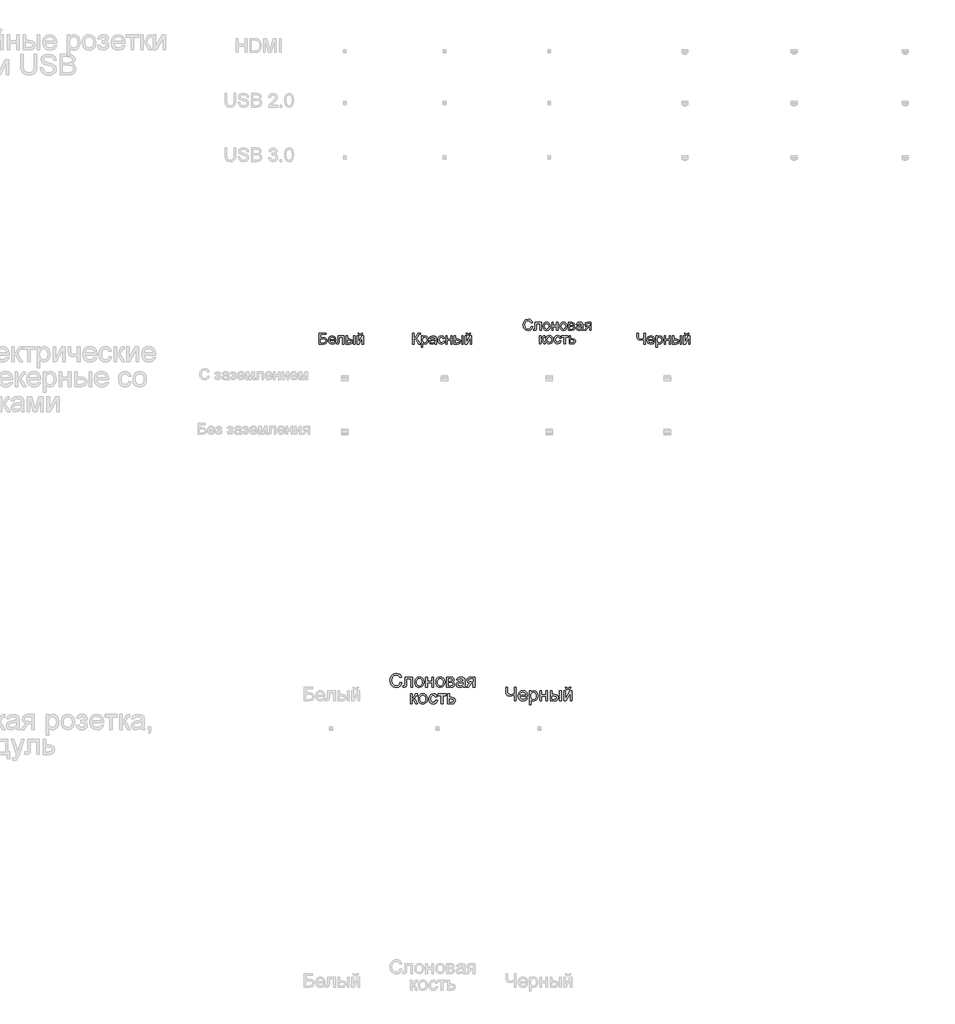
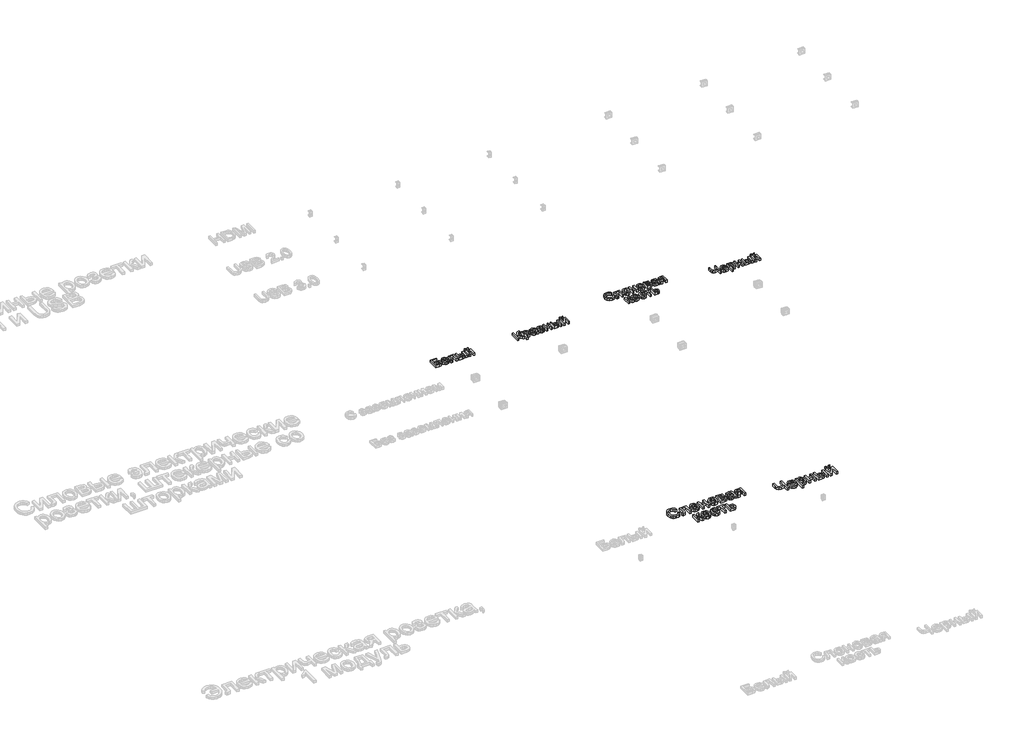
# One storey, part 36 of 47: 6 proxies.
"""IFC4 building model written with IfcOpenShell, lengths in millimetres."""

from ifc_helpers import new_model, si_unit, origin, origin_with_axes, place, context, project, spatial, polyline, outline, extrude, element, save

model = new_model("IFC4")

# Units and contexts
model_context = context("Model", 3, world=origin())
ifc_project = project(units=[si_unit("LENGTHUNIT", "METRE", prefix="MILLI")], contexts=[model_context])

# Site, building, storey
site = spatial("IfcSite", under=ifc_project)
building = spatial("IfcBuilding", under=site)
storey = spatial("IfcBuildingStorey", under=building, Name="Этаж 01", Elevation=0.0)

# Proxies
placement = place(None, origin())
element("IfcBuildingElementProxy", 1, Name="80 мм Arial", ObjectType="80 мм Arial", at=placement, inside=storey, context=model_context, shape_type="SweptSolid", body=[
    extrude(outline(polyline([(-83.3824107, -10433.3676856), (-33.1542557, -10433.3676856), (-33.1542557, -10443.4133166), (-73.3367797, -10443.4133166), (-73.3367797, -10467.2716902), (-54.5208419, -10467.2716902), (-37.9416267, -10469.312209), (-28.072579, -10477.0230156), (-24.3643285, -10490.2079064), (-27.0032687, -10501.656394), (-34.8808485, -10510.3580295), (-52.7157676, -10513.7327337), (-83.3824107, -10513.7327337), (-83.3824107, -10433.3676856)]), holes=[polyline([(-73.3367797, -10503.6871027), (-51.8132305, -10503.6871027), (-38.7656824, -10500.3712596), (-34.4099595, -10490.4237305), (-36.9017469, -10482.5559609), (-43.8375488, -10478.357201), (-58.9746666, -10477.3173212), (-73.3367797, -10477.3173212), (-73.3367797, -10503.6871027)])]), origin_with_axes(), (0.0, 0.0, 1.0), 20.0),
    extrude(outline(polyline([(29.5132159, -10496.1528794), (39.3626432, -10497.4085833), (30.1508781, -10510.3776499), (12.9928618, -10514.9884376), (1.2059227, -10512.9994222), (-7.8635948, -10507.0323763), (-13.6466997, -10497.474802), (-15.5744014, -10484.7142019), (-13.6270794, -10471.5244061), (-7.7851133, -10461.6602635), (1.1617768, -10455.5092766), (12.423871, -10453.4589476), (23.335251, -10455.5043715), (32.0540542, -10461.6406432), (37.7709405, -10471.4851653), (39.6765692, -10484.6553408), (39.6177081, -10487.3629523), (-5.5287704, -10487.3629523), (0.2494295, -10500.4105004), (13.1890655, -10504.9428065), (23.0384928, -10502.8434266), (29.5132159, -10496.1528794)]), holes=[polyline([(-5.5287704, -10477.3173212), (29.6309382, -10477.3173212), (25.6087617, -10468.2134681), (12.3846302, -10463.5045786), (0.013985, -10467.26188), (-5.5287704, -10477.3173212)])]), origin_with_axes(), (0.0, 0.0, 1.0), 20.0),
    extrude(outline(polyline([(54.7450157, -10454.7146515), (99.9503553, -10454.7146515), (99.9503553, -10513.6738726), (89.9047243, -10513.6738726), (89.9047243, -10464.7602825), (64.7906467, -10464.7602825), (64.7906467, -10492.9155178), (64.1137439, -10505.9042048), (60.3956832, -10511.3880991), (51.605756, -10513.7327337), (43.4436808, -10513.222604), (43.4436808, -10503.6871027), (47.9367463, -10503.6871027), (52.4788626, -10503.0690609), (54.2937471, -10501.1070236), (54.7450157, -10492.346527), (54.7450157, -10454.7146515)])), origin_with_axes(), (0.0, 0.0, 1.0), 20.0),
    extrude(outline(polyline([(115.0188018, -10454.7146515), (125.0644328, -10454.7146515), (125.0644328, -10476.0616174), (137.484129, -10476.0616174), (156.1725343, -10481.0942431), (161.0947954, -10487.0809094), (162.7355491, -10494.975657), (157.2320345, -10508.229219), (150.082861, -10512.356855), (139.64237, -10513.7327337), (115.0188018, -10513.7327337), (115.0188018, -10454.7146515)]), holes=[polyline([(125.0644328, -10503.6871027), (135.3847491, -10503.6871027), (148.7069824, -10501.5779126), (152.6899181, -10494.9952774), (149.737052, -10488.8148599), (136.6993141, -10486.1072484), (125.0644328, -10486.1072484), (125.0644328, -10503.6871027)])]), origin_with_axes(), (0.0, 0.0, 1.0), 20.0),
    extrude(outline(polyline([(170.2697724, -10454.7146515), (180.3154034, -10454.7146515), (180.3154034, -10513.7327337), (170.2697724, -10513.7327337), (170.2697724, -10454.7146515)])), origin_with_axes(), (0.0, 0.0, 1.0), 20.0),
    extrude(outline(polyline([(195.3838499, -10454.7146515), (205.4294809, -10454.7146515), (205.4294809, -10499.7237873), (230.1119103, -10454.7146515), (243.1005972, -10454.7146515), (243.1005972, -10513.7327337), (233.0549662, -10513.7327337), (233.0549662, -10468.9982831), (208.5294999, -10513.7327337), (195.3838499, -10513.7327337), (195.3838499, -10454.7146515)])), origin_with_axes(), (0.0, 0.0, 1.0), 20.0),
    extrude(outline(polyline([(228.0321507, -10433.3676856), (235.566374, -10433.3676856), (230.6907113, -10444.541488), (219.8700755, -10448.4361321), (208.1567128, -10444.5709186), (202.9180732, -10433.3676856), (210.4522964, -10433.3676856), (213.2776302, -10439.0281632), (218.9675384, -10440.9019088), (225.206817, -10439.0870243), (228.0321507, -10433.3676856)])), origin_with_axes(), (0.0, 0.0, 1.0), 20.0),
])
element("IfcBuildingElementProxy", 2, Name="80 мм Arial", ObjectType="80 мм Arial", at=placement, inside=storey, context=model_context, shape_type="SweptSolid", body=[
    extrude(outline(polyline([(603.2501745, -10433.3676856), (613.2958055, -10433.3676856), (613.2958055, -10468.5273941), (624.5284691, -10465.8688336), (632.3668081, -10452.4190678), (637.9095635, -10441.1864042), (644.1880829, -10435.6240285), (653.1644036, -10433.3676856), (659.7568489, -10433.4854078), (659.7568489, -10443.5310388), (657.5397468, -10443.4721777), (655.3226446, -10443.4133166), (647.4744954, -10445.8266225), (641.509902, -10456.1665591), (634.3975167, -10468.7628386), (627.4617149, -10472.9223577), (635.2166673, -10477.464474), (642.8637077, -10486.9313041), (659.7568489, -10513.7327337), (648.1023473, -10513.7327337), (633.8187157, -10491.0908231), (623.7632745, -10479.2695484), (613.2958055, -10476.0616174), (613.2958055, -10513.7327337), (603.2501745, -10513.7327337), (603.2501745, -10433.3676856)])), origin_with_axes(), (0.0, 0.0, 1.0), 20.0),
    extrude(outline(polyline([(667.2910722, -10536.3354035), (667.2910722, -10454.7146515), (677.3367032, -10454.7146515), (677.3367032, -10464.5640787), (684.2823153, -10456.2352304), (693.6608536, -10453.4589476), (706.3944757, -10457.3437815), (714.7135139, -10468.2919496), (717.5192273, -10483.772424), (714.350537, -10500.0475235), (705.1485821, -10511.1330342), (692.4443905, -10514.9884376), (683.7035143, -10512.4083585), (677.3367032, -10505.8845844), (677.3367032, -10536.3354035), (667.2910722, -10536.3354035)]), holes=[polyline([(677.3367032, -10484.6945815), (681.6826159, -10499.9984725), (692.2285664, -10504.9428065), (702.990341, -10499.8218892), (707.4735963, -10483.9490073), (703.0982531, -10468.6058756), (692.6405942, -10463.5045786), (681.9769215, -10468.9296118), (677.3367032, -10484.6945815)])]), origin_with_axes(), (0.0, 0.0, 1.0), 20.0),
    extrude(outline(polyline([(766.4916785, -10506.1985104), (756.7501632, -10513.0067799), (745.9883886, -10514.9884376), (731.4006412, -10510.2206869), (726.3091544, -10498.0364352), (728.231951, -10490.0901841), (733.2841971, -10484.3217944), (740.3181008, -10481.0255718), (749.0099261, -10479.514803), (766.4328174, -10476.0616174), (766.4916785, -10473.8248948), (763.7252059, -10466.4083938), (752.6200747, -10463.5045786), (742.4567215, -10465.4371853), (737.6104893, -10472.2945057), (727.5648583, -10471.0388019), (731.9107709, -10461.2286153), (740.6614573, -10455.479846), (753.9150193, -10453.4589476), (766.0894608, -10455.2444015), (772.9664016, -10459.7276568), (776.0468002, -10466.5457364), (776.5373095, -10475.3356636), (776.5373095, -10487.8338412), (777.0474392, -10505.2861631), (779.0487173, -10513.7327337), (769.0030862, -10513.7327337), (766.4916785, -10506.1985104)]), holes=[polyline([(766.4916785, -10486.1072484), (750.2852503, -10489.187647), (741.642476, -10490.8161379), (737.7282116, -10493.4648883), (736.3547854, -10497.3301018), (739.3468923, -10502.7649451), (748.1270093, -10504.9428065), (758.2903625, -10502.5393108), (764.8435671, -10496.7218702), (766.4328174, -10488.9522025), (766.4916785, -10486.1072484)])]), origin_with_axes(), (0.0, 0.0, 1.0), 20.0),
    extrude(outline(polyline([(828.0211684, -10492.3857678), (838.0667995, -10493.6414716), (835.2659912, -10502.576099), (830.0028261, -10509.3279599), (814.0710832, -10514.9884376), (803.3853375, -10513.0141375), (795.0295111, -10507.0912374), (789.6363611, -10497.4797071), (787.8386444, -10484.4395167), (790.9092328, -10467.7523894), (800.2681507, -10457.0298555), (813.9337406, -10453.4589476), (829.208201, -10458.3640409), (836.8110956, -10472.2945057), (826.7654646, -10473.5502096), (822.105626, -10466.0257965), (814.0122221, -10463.5045786), (802.3675307, -10468.468533), (797.8842754, -10484.1648314), (802.2694288, -10500.0082827), (813.7375368, -10504.9428065), (823.2043669, -10501.862408), (828.0211684, -10492.3857678)])), origin_with_axes(), (0.0, 0.0, 1.0), 20.0),
    extrude(outline(polyline([(846.8567266, -10454.7146515), (856.9023576, -10454.7146515), (856.9023576, -10477.3173212), (883.272139, -10477.3173212), (883.272139, -10454.7146515), (893.31777, -10454.7146515), (893.31777, -10513.7327337), (883.272139, -10513.7327337), (883.272139, -10487.3629523), (856.9023576, -10487.3629523), (856.9023576, -10513.7327337), (846.8567266, -10513.7327337), (846.8567266, -10454.7146515)])), origin_with_axes(), (0.0, 0.0, 1.0), 20.0),
    extrude(outline(polyline([(908.3862166, -10454.7146515), (918.4318476, -10454.7146515), (918.4318476, -10476.0616174), (930.8515437, -10476.0616174), (949.5399491, -10481.0942431), (954.4622102, -10487.0809094), (956.1029639, -10494.975657), (950.5994492, -10508.229219), (943.4502758, -10512.356855), (933.0097848, -10513.7327337), (908.3862166, -10513.7327337), (908.3862166, -10454.7146515)]), holes=[polyline([(918.4318476, -10503.6871027), (928.7521638, -10503.6871027), (942.0743971, -10501.5779126), (946.0573329, -10494.9952774), (943.1044667, -10488.8148599), (930.0667288, -10486.1072484), (918.4318476, -10486.1072484), (918.4318476, -10503.6871027)])]), origin_with_axes(), (0.0, 0.0, 1.0), 20.0),
    extrude(outline(polyline([(963.6371872, -10454.7146515), (973.6828182, -10454.7146515), (973.6828182, -10513.7327337), (963.6371872, -10513.7327337), (963.6371872, -10454.7146515)])), origin_with_axes(), (0.0, 0.0, 1.0), 20.0),
    extrude(outline(polyline([(988.7512647, -10454.7146515), (998.7968957, -10454.7146515), (998.7968957, -10499.7237873), (1023.479325, -10454.7146515), (1036.468012, -10454.7146515), (1036.468012, -10513.7327337), (1026.422381, -10513.7327337), (1026.422381, -10468.9982831), (1001.8969146, -10513.7327337), (988.7512647, -10513.7327337), (988.7512647, -10454.7146515)])), origin_with_axes(), (0.0, 0.0, 1.0), 20.0),
    extrude(outline(polyline([(1021.3995655, -10433.3676856), (1028.9337887, -10433.3676856), (1024.058126, -10444.541488), (1013.2374903, -10448.4361321), (1001.5241276, -10444.5709186), (996.2854879, -10433.3676856), (1003.8197112, -10433.3676856), (1006.6450449, -10439.0281632), (1012.3349531, -10440.9019088), (1018.5742318, -10439.0870243), (1021.3995655, -10433.3676856)])), origin_with_axes(), (0.0, 0.0, 1.0), 20.0),
])
element("IfcBuildingElementProxy", 3, Name="80 мм Arial", ObjectType="80 мм Arial", at=placement, inside=storey, context=model_context, shape_type="SweptSolid", body=[
    extrude(outline(polyline([(1474.1573037, -10385.1654705), (1484.2029347, -10387.7553597), (1479.5676215, -10399.4613648), (1472.2933682, -10408.0133949), (1462.7382465, -10413.2446769), (1451.2603283, -10414.9884376), (1430.3548208, -10409.7105572), (1418.0920876, -10394.4262866), (1413.8835176, -10372.941978), (1418.641458, -10351.1045028), (1432.1697053, -10336.9484036), (1451.4761524, -10332.1119817), (1462.4905393, -10333.6767064), (1471.596845, -10338.3708807), (1478.5105739, -10345.9051039), (1482.9472308, -10355.9899757), (1472.9015998, -10358.3836612), (1464.6610431, -10346.0326364), (1451.0837449, -10342.1576127), (1435.3678261, -10346.4544744), (1426.4896073, -10357.9912538), (1423.9291486, -10372.9223577), (1426.9604962, -10390.2275267), (1436.3978957, -10401.283607), (1450.2596892, -10404.9428065), (1465.6322516, -10399.9592318), (1474.1573037, -10385.1654705)])), origin_with_axes(), (0.0, 0.0, 1.0), 20.0),
    extrude(outline(polyline([(1501.7827889, -10354.7146515), (1546.9881285, -10354.7146515), (1546.9881285, -10413.6738726), (1536.9424975, -10413.6738726), (1536.9424975, -10364.7602825), (1511.82842, -10364.7602825), (1511.82842, -10392.9155178), (1511.1515171, -10405.9042048), (1507.4334564, -10411.3880991), (1498.6435293, -10413.7327337), (1490.4814541, -10413.222604), (1490.4814541, -10403.6871027), (1494.9745195, -10403.6871027), (1499.5166359, -10403.0690609), (1501.3315204, -10401.1070236), (1501.7827889, -10392.346527), (1501.7827889, -10354.7146515)])), origin_with_axes(), (0.0, 0.0, 1.0), 20.0),
    extrude(outline(polyline([(1559.5451673, -10384.2236926), (1561.7181236, -10369.994017), (1568.2369926, -10359.9925318), (1576.2911557, -10355.0923436), (1585.9345691, -10353.4589476), (1596.4878772, -10355.4479629), (1604.91728, -10361.4150089), (1610.4428676, -10370.8891965), (1612.2847301, -10383.3996369), (1609.0277482, -10401.2737968), (1599.5412978, -10411.3880991), (1585.9345691, -10414.9884376), (1575.2537285, -10413.0067799), (1566.8341359, -10407.0618068), (1561.3674094, -10397.3889629), (1559.5451673, -10384.2236926)]), holes=[polyline([(1569.5907983, -10384.2040722), (1574.2408267, -10399.7728382), (1585.9345691, -10404.9428065), (1597.5890707, -10399.7434077), (1602.2390991, -10383.8901462), (1597.5596401, -10368.6745469), (1585.9345691, -10363.5045786), (1574.2408267, -10368.6549265), (1569.5907983, -10384.2040722)])]), origin_with_axes(), (0.0, 0.0, 1.0), 20.0),
    extrude(outline(polyline([(1623.586065, -10354.7146515), (1633.631696, -10354.7146515), (1633.631696, -10377.3173212), (1660.0014774, -10377.3173212), (1660.0014774, -10354.7146515), (1670.0471084, -10354.7146515), (1670.0471084, -10413.7327337), (1660.0014774, -10413.7327337), (1660.0014774, -10387.3629523), (1633.631696, -10387.3629523), (1633.631696, -10413.7327337), (1623.586065, -10413.7327337), (1623.586065, -10354.7146515)])), origin_with_axes(), (0.0, 0.0, 1.0), 20.0),
    extrude(outline(polyline([(1682.6041472, -10384.2236926), (1684.7771035, -10369.994017), (1691.2959725, -10359.9925318), (1699.3501356, -10355.0923436), (1708.993549, -10353.4589476), (1719.5468572, -10355.4479629), (1727.97626, -10361.4150089), (1733.5018475, -10370.8891965), (1735.34371, -10383.3996369), (1732.0867281, -10401.2737968), (1722.6002777, -10411.3880991), (1708.993549, -10414.9884376), (1698.3127084, -10413.0067799), (1689.8931158, -10407.0618068), (1684.4263894, -10397.3889629), (1682.6041472, -10384.2236926)]), holes=[polyline([(1692.6497782, -10384.2040722), (1697.2998066, -10399.7728382), (1708.993549, -10404.9428065), (1720.6480506, -10399.7434077), (1725.298079, -10383.8901462), (1720.61862, -10368.6745469), (1708.993549, -10363.5045786), (1697.2998066, -10368.6549265), (1692.6497782, -10384.2040722)])]), origin_with_axes(), (0.0, 0.0, 1.0), 20.0),
    extrude(outline(polyline([(1746.6450449, -10354.7146515), (1768.7768258, -10354.7146515), (1780.9120265, -10356.058647), (1787.7399163, -10360.9833607), (1790.5946806, -10369.5672739), (1788.8680878, -10376.5423165), (1783.6686889, -10381.5160811), (1790.4180973, -10386.9607346), (1793.1060884, -10396.4275646), (1787.3573191, -10409.4751127), (1772.1711503, -10413.7327337), (1746.6450449, -10413.7327337), (1746.6450449, -10354.7146515)]), holes=[polyline([(1756.6906759, -10403.6871027), (1769.0122702, -10403.6871027), (1779.940818, -10401.8722181), (1783.0604574, -10395.603509), (1781.3436747, -10390.767087), (1776.8702297, -10387.9515635), (1768.0312516, -10387.3629523), (1756.6906759, -10387.3629523), (1756.6906759, -10403.6871027)]), polyline([(1756.6906759, -10377.3173212), (1766.6185847, -10377.3173212), (1774.8100905, -10376.8071915), (1778.7930262, -10374.7666727), (1780.5490496, -10371.0780426), (1777.468651, -10366.153329), (1766.9325107, -10364.7602825), (1756.6906759, -10364.7602825), (1756.6906759, -10377.3173212)])]), origin_with_axes(), (0.0, 0.0, 1.0), 20.0),
    extrude(outline(polyline([(1843.3342435, -10406.1985104), (1833.5927282, -10413.0067799), (1822.8309536, -10414.9884376), (1808.2432062, -10410.2206869), (1803.1517194, -10398.0364352), (1805.074516, -10390.0901841), (1810.126762, -10384.3217944), (1817.1606658, -10381.0255718), (1825.852491, -10379.514803), (1843.2753823, -10376.0616174), (1843.3342435, -10373.8248948), (1840.5677708, -10366.4083938), (1829.4626397, -10363.5045786), (1819.2992864, -10365.4371853), (1814.4530543, -10372.2945057), (1804.4074233, -10371.0388019), (1808.7533359, -10361.2286153), (1817.5040223, -10355.479846), (1830.7575843, -10353.4589476), (1842.9320258, -10355.2444015), (1849.8089666, -10359.7276568), (1852.8893651, -10366.5457364), (1853.3798745, -10375.3356636), (1853.3798745, -10387.8338412), (1853.8900042, -10405.2861631), (1855.8912822, -10413.7327337), (1845.8456512, -10413.7327337), (1843.3342435, -10406.1985104)]), holes=[polyline([(1843.3342435, -10386.1072484), (1827.1278153, -10389.187647), (1818.485041, -10390.8161379), (1814.5707765, -10393.4648883), (1813.1973504, -10397.3301018), (1816.1894573, -10402.7649451), (1824.9695743, -10404.9428065), (1835.1329275, -10402.5393108), (1841.6861321, -10396.7218702), (1843.2753823, -10388.9522025), (1843.3342435, -10386.1072484)])]), origin_with_axes(), (0.0, 0.0, 1.0), 20.0),
    extrude(outline(polyline([(1912.3979567, -10354.7146515), (1912.3979567, -10413.7327337), (1902.3523257, -10413.7327337), (1902.3523257, -10391.1300639), (1896.8782416, -10391.1300639), (1889.4224998, -10392.4053881), (1882.4180266, -10400.9794912), (1874.4129144, -10413.7327337), (1862.7976535, -10413.7327337), (1872.8825253, -10397.604787), (1881.437008, -10389.2465081), (1869.7432656, -10383.144572), (1865.9369132, -10371.7647557), (1871.1363121, -10359.4431614), (1886.1851383, -10354.7146515), (1912.3979567, -10354.7146515)]), holes=[polyline([(1902.3523257, -10364.7602825), (1889.1085738, -10364.7602825), (1878.38604, -10367.0852967), (1875.9825443, -10372.5299502), (1879.5240216, -10379.0144835), (1892.0712502, -10381.0844329), (1902.3523257, -10381.0844329), (1902.3523257, -10364.7602825)])]), origin_with_axes(), (0.0, 0.0, 1.0), 20.0),
    extrude(outline(polyline([(1533.8032378, -10452.2945057), (1543.8488688, -10452.2945057), (1543.8488688, -10477.4085833), (1550.5786568, -10475.603509), (1556.0919816, -10465.086989), (1560.6733387, -10456.0125664), (1564.7151356, -10453.0597003), (1572.0629653, -10452.2945057), (1573.9857619, -10452.2945057), (1573.9857619, -10462.3989979), (1571.2781504, -10462.3401368), (1566.3730571, -10463.3996369), (1562.9198714, -10470.0117026), (1558.8682644, -10477.1633286), (1553.1881664, -10480.6655652), (1559.5255469, -10484.5749245), (1565.7452052, -10492.8105761), (1576.4971696, -10511.3125879), (1565.0781125, -10511.3125879), (1554.5419721, -10493.2029836), (1549.2444714, -10485.5412279), (1543.8488688, -10483.6871027), (1543.8488688, -10511.3125879), (1533.8032378, -10511.3125879), (1533.8032378, -10452.2945057)])), origin_with_axes(), (0.0, 0.0, 1.0), 20.0),
    extrude(outline(polyline([(1580.2642812, -10481.8035468), (1582.4372376, -10467.5738713), (1588.9561065, -10457.5723861), (1597.0102697, -10452.6721979), (1606.653683, -10451.0388019), (1617.2069912, -10453.0278172), (1625.636394, -10458.9948631), (1631.1619816, -10468.4690508), (1633.0038441, -10480.9794912), (1629.7468621, -10498.853651), (1620.2604118, -10508.9679534), (1606.653683, -10512.5682918), (1595.9728424, -10510.5866341), (1587.5532498, -10504.6416611), (1582.0865234, -10494.9688172), (1580.2642812, -10481.8035468)]), holes=[polyline([(1590.3099123, -10481.7839265), (1594.9599407, -10497.3526925), (1606.653683, -10502.5226608), (1618.3081846, -10497.3232619), (1622.9582131, -10481.4700005), (1618.2787541, -10466.2544012), (1606.653683, -10461.0844329), (1594.9599407, -10466.2347808), (1590.3099123, -10481.7839265)])]), origin_with_axes(), (0.0, 0.0, 1.0), 20.0),
    extrude(outline(polyline([(1681.9762953, -10489.965622), (1692.0219263, -10491.2213259), (1689.221118, -10500.1559533), (1683.957953, -10506.9078142), (1668.02621, -10512.5682918), (1657.3404643, -10510.5939918), (1648.9846379, -10504.6710917), (1643.5914879, -10495.0595614), (1641.7937712, -10482.0193709), (1644.8643596, -10465.3322436), (1654.2232776, -10454.6097098), (1667.8888674, -10451.0388019), (1683.1633278, -10455.9438951), (1690.7662224, -10469.87436), (1680.7205914, -10471.1300639), (1676.0607528, -10463.6056508), (1667.9673489, -10461.0844329), (1656.3226575, -10466.0483873), (1651.8394022, -10481.7446857), (1656.2245556, -10497.588137), (1667.6926637, -10502.5226608), (1677.1594937, -10499.4422622), (1681.9762953, -10489.965622)])), origin_with_axes(), (0.0, 0.0, 1.0), 20.0),
    extrude(outline(polyline([(1695.7890379, -10452.2945057), (1743.5057852, -10452.2945057), (1743.5057852, -10462.3401368), (1724.6702271, -10462.3401368), (1724.6702271, -10511.3125879), (1714.6245961, -10511.3125879), (1714.6245961, -10462.3401368), (1695.7890379, -10462.3401368), (1695.7890379, -10452.2945057)])), origin_with_axes(), (0.0, 0.0, 1.0), 20.0),
    extrude(outline(polyline([(1752.2957124, -10452.2945057), (1762.3413434, -10452.2945057), (1762.3413434, -10473.6414716), (1773.9173635, -10473.6414716), (1791.3794955, -10478.6740973), (1795.9706628, -10484.6607637), (1797.5010519, -10492.5555113), (1792.2918429, -10505.8090733), (1785.5203616, -10509.9367093), (1775.624336, -10511.3125879), (1752.2957124, -10511.3125879), (1752.2957124, -10452.2945057)]), holes=[polyline([(1762.3413434, -10501.2669569), (1771.7198817, -10501.2669569), (1783.8354621, -10499.1577668), (1787.4554209, -10492.5751317), (1784.77724, -10486.3947141), (1772.9167245, -10483.6871027), (1762.3413434, -10483.6871027), (1762.3413434, -10501.2669569)])]), origin_with_axes(), (0.0, 0.0, 1.0), 20.0),
])
element("IfcBuildingElementProxy", 4, Name="80 мм Arial", ObjectType="80 мм Arial", at=placement, inside=storey, context=model_context, shape_type="SweptSolid", body=[
    extrude(outline(polyline([(2309.7804223, -10513.7327337), (2299.7347913, -10513.7327337), (2299.7347913, -10481.5553218), (2274.8561582, -10487.3629523), (2260.170309, -10483.3898267), (2251.6550671, -10473.304955), (2249.5066362, -10457.3045407), (2249.5066362, -10433.3676856), (2259.5522672, -10433.3676856), (2259.5522672, -10455.950735), (2260.7589202, -10466.813064), (2264.378879, -10473.1872327), (2275.9745195, -10477.3173212), (2299.7347913, -10472.3337465), (2299.7347913, -10433.3676856), (2309.7804223, -10433.3676856), (2309.7804223, -10513.7327337)])), origin_with_axes(), (0.0, 0.0, 1.0), 20.0),
    extrude(outline(polyline([(2367.4250784, -10496.1528794), (2377.2745057, -10497.4085833), (2368.0627405, -10510.3776499), (2350.9047243, -10514.9884376), (2339.1177851, -10512.9994222), (2330.0482677, -10507.0323763), (2324.2651627, -10497.474802), (2322.3374611, -10484.7142019), (2324.2847831, -10471.5244061), (2330.1267492, -10461.6602635), (2339.0736393, -10455.5092766), (2350.3357334, -10453.4589476), (2361.2471134, -10455.5043715), (2369.9659167, -10461.6406432), (2375.6828029, -10471.4851653), (2377.5884316, -10484.6553408), (2377.5295705, -10487.3629523), (2332.3830921, -10487.3629523), (2338.161292, -10500.4105004), (2351.100928, -10504.9428065), (2360.9503553, -10502.8434266), (2367.4250784, -10496.1528794)]), holes=[polyline([(2332.3830921, -10477.3173212), (2367.5428006, -10477.3173212), (2363.5206242, -10468.2134681), (2350.2964927, -10463.5045786), (2337.9258475, -10467.26188), (2332.3830921, -10477.3173212)])]), origin_with_axes(), (0.0, 0.0, 1.0), 20.0),
    extrude(outline(polyline([(2387.6340627, -10536.3354035), (2387.6340627, -10454.7146515), (2397.6796937, -10454.7146515), (2397.6796937, -10464.5640787), (2404.6253057, -10456.2352304), (2414.0038441, -10453.4589476), (2426.7374662, -10457.3437815), (2435.0565044, -10468.2919496), (2437.8622177, -10483.772424), (2434.6935275, -10500.0475235), (2425.4915725, -10511.1330342), (2412.7873809, -10514.9884376), (2404.0465047, -10512.4083585), (2397.6796937, -10505.8845844), (2397.6796937, -10536.3354035), (2387.6340627, -10536.3354035)]), holes=[polyline([(2397.6796937, -10484.6945815), (2402.0256063, -10499.9984725), (2412.5715568, -10504.9428065), (2423.3333315, -10499.8218892), (2427.8165867, -10483.9490073), (2423.4412435, -10468.6058756), (2412.9835847, -10463.5045786), (2402.3199119, -10468.9296118), (2397.6796937, -10484.6945815)])]), origin_with_axes(), (0.0, 0.0, 1.0), 20.0),
    extrude(outline(polyline([(2449.1635526, -10454.7146515), (2459.2091836, -10454.7146515), (2459.2091836, -10477.3173212), (2485.5789651, -10477.3173212), (2485.5789651, -10454.7146515), (2495.6245961, -10454.7146515), (2495.6245961, -10513.7327337), (2485.5789651, -10513.7327337), (2485.5789651, -10487.3629523), (2459.2091836, -10487.3629523), (2459.2091836, -10513.7327337), (2449.1635526, -10513.7327337), (2449.1635526, -10454.7146515)])), origin_with_axes(), (0.0, 0.0, 1.0), 20.0),
    extrude(outline(polyline([(2565.9440132, -10454.7146515), (2575.9896442, -10454.7146515), (2575.9896442, -10513.7327337), (2565.9440132, -10513.7327337), (2565.9440132, -10454.7146515)])), origin_with_axes(), (0.0, 0.0, 1.0), 20.0),
    extrude(outline(polyline([(2510.6930426, -10454.7146515), (2520.7386736, -10454.7146515), (2520.7386736, -10476.0616174), (2533.1583698, -10476.0616174), (2551.8467751, -10481.0942431), (2556.7690362, -10487.0809094), (2558.4097899, -10494.975657), (2552.9062753, -10508.229219), (2545.7571018, -10512.356855), (2535.3166108, -10513.7327337), (2510.6930426, -10513.7327337), (2510.6930426, -10454.7146515)]), holes=[polyline([(2520.7386736, -10503.6871027), (2531.0589898, -10503.6871027), (2544.3812232, -10501.5779126), (2548.3641589, -10494.9952774), (2545.4112928, -10488.8148599), (2532.3735548, -10486.1072484), (2520.7386736, -10486.1072484), (2520.7386736, -10503.6871027)])]), origin_with_axes(), (0.0, 0.0, 1.0), 20.0),
    extrude(outline(polyline([(2591.0580907, -10454.7146515), (2601.1037217, -10454.7146515), (2601.1037217, -10499.7237873), (2625.7861511, -10454.7146515), (2638.774838, -10454.7146515), (2638.774838, -10513.7327337), (2628.729207, -10513.7327337), (2628.729207, -10468.9982831), (2604.2037407, -10513.7327337), (2591.0580907, -10513.7327337), (2591.0580907, -10454.7146515)])), origin_with_axes(), (0.0, 0.0, 1.0), 20.0),
    extrude(outline(polyline([(2623.7063915, -10433.3676856), (2631.2406148, -10433.3676856), (2626.3649521, -10444.541488), (2615.5443163, -10448.4361321), (2603.8309536, -10444.5709186), (2598.592314, -10433.3676856), (2606.1265372, -10433.3676856), (2608.951871, -10439.0281632), (2614.6417792, -10440.9019088), (2620.8810578, -10439.0870243), (2623.7063915, -10433.3676856)])), origin_with_axes(), (0.0, 0.0, 1.0), 20.0),
])
element("IfcBuildingElementProxy", 5, Name="100 мм Arial", ObjectType="100 мм Arial", at=placement, inside=storey, context=model_context, shape_type="SweptSolid", body=[
    extrude(outline(polyline([(512.340867, -12995.1935592), (524.8979057, -12998.4309208), (519.1037643, -13013.0634271), (510.0109477, -13023.7534648), (498.0670456, -13030.2925672), (483.7196477, -13032.4722681), (469.1545864, -13030.8229305), (457.5877634, -13025.8749176), (448.7218073, -13017.7999078), (442.2593469, -13006.7695793), (436.9986344, -12979.9141937), (438.4854908, -12965.2663589), (442.9460599, -12952.6173496), (450.14735, -12942.3687704), (459.856369, -12934.9222257), (471.3710754, -12930.3880801), (483.9894279, -12928.8766982), (497.7574115, -12930.8326042), (509.1402936, -12936.700322), (517.7824548, -12946.1181011), (523.3282759, -12958.7241908), (510.7712371, -12961.7162977), (500.4705413, -12946.2775166), (483.4989185, -12941.433737), (463.85402, -12946.8048141), (452.7562465, -12961.2257883), (449.5556731, -12979.8896682), (453.3448577, -13001.5211295), (465.141607, -13015.3412298), (482.468849, -13019.9152293), (492.9504201, -13018.3578622), (501.6845518, -13013.6857608), (508.2788366, -13005.9479762), (512.340867, -12995.1935592)])), origin_with_axes(), (0.0, 0.0, 1.0), 20.0),
    extrude(outline(polyline([(546.8727236, -12957.1300355), (603.379398, -12957.1300355), (603.379398, -13030.8290618), (590.8223593, -13030.8290618), (590.8223593, -12969.6870742), (559.4297624, -12969.6870742), (559.4297624, -13004.8811184), (558.5836338, -13021.1169771), (553.9360579, -13027.971845), (542.948649, -13030.9026382), (532.746055, -13030.2649761), (532.746055, -13018.3455994), (538.3623868, -13018.3455994), (544.0400322, -13017.5730473), (546.3086379, -13015.1205006), (546.8727236, -13004.1698799), (546.8727236, -12957.1300355)])), origin_with_axes(), (0.0, 0.0, 1.0), 20.0),
    extrude(outline(polyline([(619.0756965, -12994.0163368), (621.7918919, -12976.2292424), (629.9404781, -12963.7273859), (640.008182, -12957.6021507), (652.0624487, -12955.5604056), (665.2540839, -12958.0466748), (675.7908374, -12965.5054822), (682.6978219, -12977.3482168), (685.00015, -12992.9862672), (680.9289226, -13015.3289671), (669.0708596, -13027.971845), (652.0624487, -13032.4722681), (638.711398, -13029.995196), (628.1869073, -13022.5639797), (621.3534992, -13010.4729248), (619.0756965, -12994.0163368)]), holes=[polyline([(631.6327353, -12993.9918114), (633.0858692, -13005.3562993), (637.4452708, -13013.4527689), (644.005833, -13018.2996142), (652.0624487, -13019.9152293), (660.0822762, -13018.2904171), (666.6305757, -13013.4159807), (670.9899774, -13005.2122122), (672.4431113, -12993.5994039), (670.9807803, -12982.5660097), (666.5937875, -12974.5799048), (660.036291, -12969.7330595), (652.0624487, -12968.1174444), (644.005833, -12969.7269281), (637.4452708, -12974.5553793), (633.0858692, -12982.6334548), (631.6327353, -12993.9918114)])]), origin_with_axes(), (0.0, 0.0, 1.0), 20.0),
    extrude(outline(polyline([(699.1268187, -12957.1300355), (711.6838574, -12957.1300355), (711.6838574, -12985.3833727), (744.6460842, -12985.3833727), (744.6460842, -12957.1300355), (757.203123, -12957.1300355), (757.203123, -13030.9026382), (744.6460842, -13030.9026382), (744.6460842, -12997.9404114), (711.6838574, -12997.9404114), (711.6838574, -13030.9026382), (699.1268187, -13030.9026382), (699.1268187, -12957.1300355)])), origin_with_axes(), (0.0, 0.0, 1.0), 20.0),
    extrude(outline(polyline([(772.8994214, -12994.0163368), (775.6156168, -12976.2292424), (783.764203, -12963.7273859), (793.8319069, -12957.6021507), (805.8861737, -12955.5604056), (819.0778089, -12958.0466748), (829.6145623, -12965.5054822), (836.5215468, -12977.3482168), (838.823875, -12992.9862672), (834.7526475, -13015.3289671), (822.8945846, -13027.971845), (805.8861737, -13032.4722681), (792.5351229, -13029.995196), (782.0106322, -13022.5639797), (775.1772241, -13010.4729248), (772.8994214, -12994.0163368)]), holes=[polyline([(785.4564602, -12993.9918114), (786.9095941, -13005.3562993), (791.2689957, -13013.4527689), (797.829558, -13018.2996142), (805.8861737, -13019.9152293), (813.9060011, -13018.2904171), (820.4543007, -13013.4159807), (824.8137023, -13005.2122122), (826.2668362, -12993.5994039), (824.8045053, -12982.5660097), (820.4175125, -12974.5799048), (813.8600159, -12969.7330595), (805.8861737, -12968.1174444), (797.829558, -12969.7269281), (791.2689957, -12974.5553793), (786.9095941, -12982.6334548), (785.4564602, -12993.9918114)])]), origin_with_axes(), (0.0, 0.0, 1.0), 20.0),
    extrude(outline(polyline([(852.9505436, -12957.1300355), (880.6152696, -12957.1300355), (895.7842705, -12958.8100299), (904.3191328, -12964.9659219), (907.8875882, -12975.6958135), (905.7293471, -12984.4146168), (899.2300986, -12990.6318225), (907.666859, -12997.4376394), (911.0268479, -13009.2711769), (908.8992637, -13018.8422401), (903.8408862, -13025.580612), (895.8333215, -13029.5721317), (884.8581753, -13030.9026382), (852.9505436, -13030.9026382), (852.9505436, -12957.1300355)]), holes=[polyline([(865.5075823, -12985.3833727), (877.9174683, -12985.3833727), (888.1568505, -12984.7457106), (893.1355202, -12982.1950621), (895.3305494, -12977.5842744), (891.4800512, -12971.4283823), (878.3098758, -12969.6870742), (865.5075823, -12969.6870742), (865.5075823, -12985.3833727)]), polyline([(865.5075823, -13018.3455994), (880.9095752, -13018.3455994), (894.57026, -13016.0769938), (898.4698091, -13008.2411073), (896.3238308, -13002.1955799), (890.7320245, -12998.6761754), (879.6833019, -12997.9404114), (865.5075823, -12997.9404114), (865.5075823, -13018.3455994)])]), origin_with_axes(), (0.0, 0.0, 1.0), 20.0),
    extrude(outline(polyline([(973.8120417, -13021.4848591), (961.6351477, -13029.995196), (948.1829294, -13032.4722681), (937.6890955, -13030.982346), (929.9482452, -13026.5125797), (925.1749763, -13019.7251569), (923.5838866, -13011.2822651), (925.9873823, -13001.3494513), (932.3026899, -12994.1389642), (941.0950696, -12990.0186858), (951.9598512, -12988.1302249), (973.7384653, -12983.8137428), (973.8120417, -12981.0178397), (970.353951, -12971.7472134), (956.472537, -12968.1174444), (943.7683454, -12970.5332028), (937.7105553, -12979.1048533), (925.1535165, -12977.5352234), (930.5859073, -12965.2724903), (941.5242653, -12958.0865286), (958.0912178, -12955.5604056), (973.3092697, -12957.792223), (981.9054456, -12963.3962921), (985.7559438, -12971.9188917), (986.3690805, -12982.9063006), (986.3690805, -12998.5290226), (987.0067426, -13020.344425), (989.5083402, -13030.9026382), (976.9513014, -13030.9026382), (973.8120417, -13021.4848591)]), holes=[polyline([(973.8120417, -12996.3707816), (953.5540065, -13000.2212798), (942.7505386, -13002.2568935), (937.8577081, -13005.5678315), (936.1409254, -13010.3993484), (939.881059, -13017.1929025), (950.8562052, -13019.9152293), (963.5603968, -13016.9108597), (971.7519025, -13009.6390589), (973.7384653, -12999.9269742), (973.8120417, -12996.3707816)])]), origin_with_axes(), (0.0, 0.0, 1.0), 20.0),
    extrude(outline(polyline([(1060.1416833, -12957.1300355), (1060.1416833, -13030.9026382), (1047.5846445, -13030.9026382), (1047.5846445, -13002.649301), (1040.7420394, -13002.649301), (1031.4223622, -13004.2434563), (1022.6667707, -13014.9610851), (1012.6603804, -13030.9026382), (998.1413043, -13030.9026382), (1010.747394, -13010.7427049), (1021.4404974, -13000.2948562), (1012.8565841, -12997.6645), (1006.8233194, -12992.6674362), (1002.0653789, -12978.4426657), (1003.6901911, -12969.8464898), (1008.5646275, -12963.0406728), (1016.51701, -12958.6076948), (1027.3756602, -12957.1300355), (1060.1416833, -12957.1300355)]), holes=[polyline([(1047.5846445, -12969.6870742), (1031.0299547, -12969.6870742), (1017.6267873, -12972.593342), (1014.6224177, -12979.3991589), (1019.0492644, -12987.5048255), (1034.7333001, -12990.0922622), (1047.5846445, -12990.0922622), (1047.5846445, -12969.6870742)])]), origin_with_axes(), (0.0, 0.0, 1.0), 20.0),
    extrude(outline(polyline([(586.8982847, -13079.1048533), (599.4553234, -13079.1048533), (599.4553234, -13110.4974502), (607.8675584, -13108.2411073), (614.7592144, -13095.0954574), (620.4859108, -13083.7524292), (625.5381569, -13080.0613465), (634.722944, -13079.1048533), (637.1264397, -13079.1048533), (637.1264397, -13091.7354685), (633.7419254, -13091.6618921), (627.6105588, -13092.9862672), (623.2940767, -13101.2513494), (618.2295679, -13110.1908819), (611.1294454, -13114.5686776), (619.051171, -13119.4553768), (626.8257439, -13129.7499413), (640.2656994, -13152.8774561), (625.991878, -13152.8774561), (612.8217026, -13130.2404506), (606.1998267, -13120.663256), (599.4553234, -13118.3455994), (599.4553234, -13152.8774561), (586.8982847, -13152.8774561), (586.8982847, -13079.1048533)])), origin_with_axes(), (0.0, 0.0, 1.0), 20.0),
    extrude(outline(polyline([(644.974589, -13115.9911547), (647.6907844, -13098.2040602), (655.8393706, -13085.7022037), (665.9070745, -13079.5769685), (677.9613412, -13077.5352234), (691.1529764, -13080.0214926), (701.6897299, -13087.4803001), (708.5967143, -13099.3230346), (710.8990425, -13114.9610851), (706.8278151, -13137.3037849), (694.9697521, -13149.9466628), (677.9613412, -13154.4470859), (664.6102905, -13151.9700138), (654.0857997, -13144.5387975), (647.2523917, -13132.4477426), (644.974589, -13115.9911547)]), holes=[polyline([(657.5316277, -13115.9666292), (658.9847616, -13127.3311172), (663.3441633, -13135.4275868), (669.9047255, -13140.274432), (677.9613412, -13141.8900471), (685.9811687, -13140.265235), (692.5294682, -13135.3907986), (696.8888698, -13127.1870301), (698.3420037, -13115.5742218), (696.8796728, -13104.5408276), (692.49268, -13096.5547226), (685.9351834, -13091.7078773), (677.9613412, -13090.0922622), (669.9047255, -13091.7017459), (663.3441633, -13096.5301971), (658.9847616, -13104.6082726), (657.5316277, -13115.9666292)])]), origin_with_axes(), (0.0, 0.0, 1.0), 20.0),
    extrude(outline(polyline([(772.1146065, -13126.1937487), (784.6716453, -13127.7633785), (781.1706349, -13138.9316628), (774.5916786, -13147.3714889), (765.5540442, -13152.6781866), (754.6769999, -13154.4470859), (741.3198178, -13151.9792109), (730.8750348, -13144.5755857), (724.1335973, -13132.5611729), (721.8864514, -13116.2609348), (725.7246869, -13095.4020257), (737.4233344, -13081.9988583), (754.5053217, -13077.5352234), (765.1156515, -13079.0680651), (773.5983972, -13083.66659), (779.6837785, -13091.0855436), (783.1020154, -13101.0796711), (770.5449767, -13102.649301), (764.7201784, -13093.2437846), (754.6034235, -13090.0922622), (746.4885598, -13091.643498), (740.0475593, -13096.2972052), (735.8445075, -13104.30477), (734.4434902, -13115.9175783), (735.8138506, -13127.6867364), (739.9249319, -13135.7218924), (746.2494366, -13140.3480084), (754.260067, -13141.8900471), (766.0936045, -13138.0395489), (772.1146065, -13126.1937487)])), origin_with_axes(), (0.0, 0.0, 1.0), 20.0),
    extrude(outline(polyline([(789.3805348, -13079.1048533), (849.026469, -13079.1048533), (849.026469, -13091.6618921), (825.4820213, -13091.6618921), (825.4820213, -13152.8774561), (812.9249825, -13152.8774561), (812.9249825, -13091.6618921), (789.3805348, -13091.6618921), (789.3805348, -13079.1048533)])), origin_with_axes(), (0.0, 0.0, 1.0), 20.0),
    extrude(outline(polyline([(860.0138779, -13079.1048533), (872.5709166, -13079.1048533), (872.5709166, -13105.7885607), (887.0409418, -13105.7885607), (899.5857178, -13107.3612562), (908.8686068, -13112.0793428), (914.607566, -13119.5626757), (916.5205523, -13129.4311102), (914.8926745, -13138.416628), (910.009041, -13145.9980628), (901.5446894, -13151.1576077), (889.1746574, -13152.8774561), (860.0138779, -13152.8774561), (860.0138779, -13079.1048533)]), holes=[polyline([(872.5709166, -13140.3204173), (884.2940896, -13140.3204173), (899.438565, -13137.6839297), (903.9635136, -13129.4556357), (900.6157874, -13121.7301138), (885.790143, -13118.3455994), (872.5709166, -13118.3455994), (872.5709166, -13140.3204173)])]), origin_with_axes(), (0.0, 0.0, 1.0), 20.0),
])
element("IfcBuildingElementProxy", 6, Name="100 мм Arial", ObjectType="100 мм Arial", at=placement, inside=storey, context=model_context, shape_type="SweptSolid", body=[
    extrude(outline(polyline([(1361.6197653, -13130.9026382), (1349.0627265, -13130.9026382), (1349.0627265, -13090.6808734), (1317.9644352, -13097.9404114), (1299.6071236, -13092.9740045), (1288.9630712, -13080.3679148), (1286.2775327, -13060.367397), (1286.2775327, -13030.4463281), (1298.8345714, -13030.4463281), (1298.8345714, -13058.6751398), (1300.3428876, -13072.2530511), (1304.8678362, -13080.220762), (1319.3623868, -13085.3833727), (1349.0627265, -13079.1539042), (1349.0627265, -13030.4463281), (1361.6197653, -13030.4463281), (1361.6197653, -13130.9026382)])), origin_with_axes(), (0.0, 0.0, 1.0), 20.0),
    extrude(outline(polyline([(1433.6755854, -13108.9278204), (1445.9873695, -13110.4974502), (1441.5513258, -13119.7742079), (1434.4726631, -13126.7087835), (1424.9107969, -13131.0313969), (1413.0251427, -13132.4722681), (1398.2914688, -13129.9859989), (1386.954572, -13122.5271915), (1379.7256908, -13110.5802237), (1377.3160637, -13094.6294735), (1379.7502163, -13078.1422287), (1387.0526739, -13065.8120505), (1398.2362865, -13058.1233168), (1412.3139042, -13055.5604056), (1425.9531292, -13058.1171855), (1436.8516333, -13065.7875251), (1443.997741, -13078.0931778), (1446.379777, -13094.5558971), (1446.3062006, -13097.9404114), (1389.8731025, -13097.9404114), (1392.046672, -13107.3397964), (1397.0958523, -13114.2498466), (1404.3829815, -13118.4988836), (1413.2703974, -13119.9152293), (1425.5821815, -13117.2910044), (1433.6755854, -13108.9278204)]), holes=[polyline([(1389.8731025, -13085.3833727), (1433.8227382, -13085.3833727), (1428.7950176, -13074.0035563), (1421.4741659, -13069.5889724), (1412.2648533, -13068.1174444), (1396.8015467, -13072.8140712), (1391.9363074, -13078.30471), (1389.8731025, -13085.3833727)])]), origin_with_axes(), (0.0, 0.0, 1.0), 20.0),
    extrude(outline(polyline([(1458.9368157, -13159.1559754), (1458.9368157, -13057.1300355), (1471.4938545, -13057.1300355), (1471.4938545, -13069.4418196), (1480.1758696, -13059.0307591), (1491.8990425, -13055.5604056), (1507.8160702, -13060.4164479), (1518.2148679, -13074.1016582), (1521.7220096, -13093.4522511), (1517.7611468, -13113.7961254), (1506.258703, -13127.6530139), (1490.3784636, -13132.4722681), (1479.4523683, -13129.2471692), (1471.4938545, -13121.0924517), (1471.4938545, -13159.1559754), (1458.9368157, -13159.1559754)]), holes=[polyline([(1471.4938545, -13094.604948), (1472.8519522, -13105.8621371), (1476.9262453, -13113.7348118), (1482.9380502, -13118.3701249), (1490.1086835, -13119.9152293), (1497.3958126, -13118.3149426), (1503.5609017, -13113.5140826), (1507.7639535, -13105.3532337), (1509.1649708, -13093.6729803), (1507.7976761, -13082.4771049), (1503.6957918, -13074.4940656), (1497.6931839, -13069.7115997), (1490.6237182, -13068.1174444), (1483.5266614, -13069.8127672), (1477.2941273, -13074.8987358), (1472.9439227, -13083.2159346), (1471.4938545, -13094.604948)])]), origin_with_axes(), (0.0, 0.0, 1.0), 20.0),
    extrude(outline(polyline([(1535.8486782, -13057.1300355), (1548.405717, -13057.1300355), (1548.405717, -13085.3833727), (1581.3679437, -13085.3833727), (1581.3679437, -13057.1300355), (1593.9249825, -13057.1300355), (1593.9249825, -13130.9026382), (1581.3679437, -13130.9026382), (1581.3679437, -13097.9404114), (1548.405717, -13097.9404114), (1548.405717, -13130.9026382), (1535.8486782, -13130.9026382), (1535.8486782, -13057.1300355)])), origin_with_axes(), (0.0, 0.0, 1.0), 20.0),
    extrude(outline(polyline([(1612.7605406, -13057.1300355), (1625.3175794, -13057.1300355), (1625.3175794, -13083.8137428), (1640.8421996, -13083.8137428), (1654.2606954, -13085.3864384), (1664.2027063, -13090.104525), (1670.3555327, -13097.5878579), (1672.4064748, -13107.4562924), (1670.6866265, -13116.4418101), (1665.5270815, -13124.0232449), (1656.5906147, -13129.1827899), (1643.5400009, -13130.9026382), (1612.7605406, -13130.9026382), (1612.7605406, -13057.1300355)]), holes=[polyline([(1625.3175794, -13118.3455994), (1638.2179747, -13118.3455994), (1654.8707664, -13115.7091118), (1659.849436, -13107.4808179), (1656.1583533, -13099.755296), (1639.861181, -13096.3707816), (1625.3175794, -13096.3707816), (1625.3175794, -13118.3455994)])]), origin_with_axes(), (0.0, 0.0, 1.0), 20.0),
    extrude(outline(polyline([(1681.8242539, -13057.1300355), (1694.3812926, -13057.1300355), (1694.3812926, -13130.9026382), (1681.8242539, -13130.9026382), (1681.8242539, -13057.1300355)])), origin_with_axes(), (0.0, 0.0, 1.0), 20.0),
    extrude(outline(polyline([(1713.2168508, -13057.1300355), (1725.7738896, -13057.1300355), (1725.7738896, -13113.3914552), (1756.6269262, -13057.1300355), (1772.8627849, -13057.1300355), (1772.8627849, -13130.9026382), (1760.3057462, -13130.9026382), (1760.3057462, -13074.984575), (1729.6489132, -13130.9026382), (1713.2168508, -13130.9026382), (1713.2168508, -13057.1300355)])), origin_with_axes(), (0.0, 0.0, 1.0), 20.0),
    extrude(outline(polyline([(1754.0272268, -13030.4463281), (1763.4450059, -13030.4463281), (1757.3504275, -13044.4135812), (1743.8246328, -13049.2818862), (1729.1829294, -13044.4503694), (1722.6346299, -13030.4463281), (1732.052409, -13030.4463281), (1735.5840761, -13037.5219251), (1742.6964613, -13039.8641071), (1750.4955596, -13037.5955015), (1754.0272268, -13030.4463281)])), origin_with_axes(), (0.0, 0.0, 1.0), 20.0),
])

save(model, "model.ifc")
